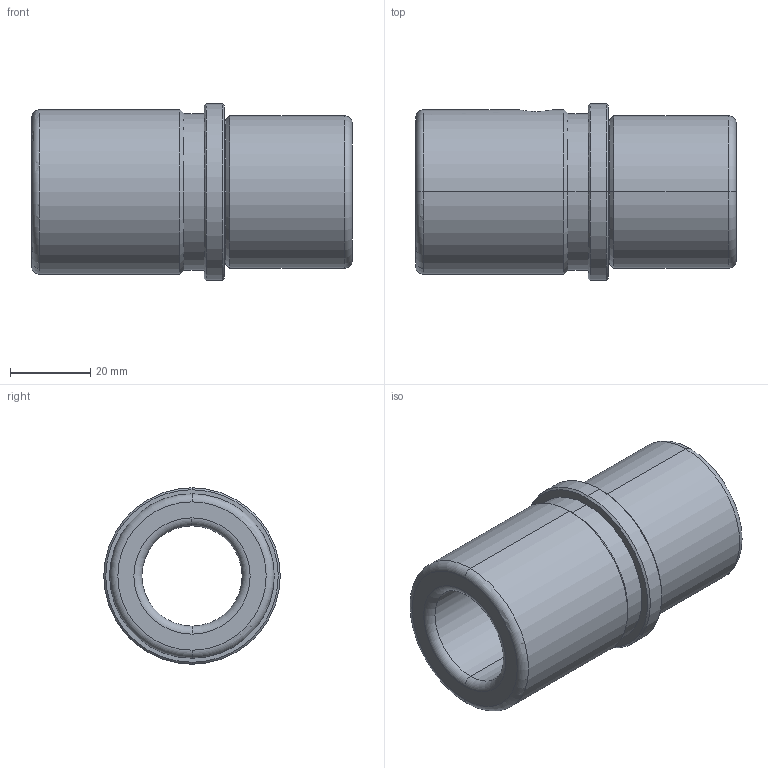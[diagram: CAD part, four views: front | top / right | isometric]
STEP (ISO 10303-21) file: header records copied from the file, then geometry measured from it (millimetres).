
FILE_DESCRIPTION(('CATIA V5 STEP Exchange'),'2;1');
FILE_NAME('C:\Users\Utente\Desktop\IO LAVORO\3D X SITO CF\X SITO\FAMO\FAMO-SF1-D25 x 80.stp','2021-01-06T17:06:33+00:00',('none'),('none'),'CATIA Version 5 Release 20 GA (IN-10)','CATIA V5 STEP AP203','none');
FILE_SCHEMA(('CONFIG_CONTROL_DESIGN'));
Length unit declared in the file: millimetre
Products named in the file (1): FAMO-SF1-D25 x 80
Bounding box: 80 x 44 x 44 mm (x, y, z)
Volume: 59541.8 mm3; surface area: 18532.6 mm2
Topology: 1 solids, 1 shells, 38 faces, 127 edges, 94 vertices
Faces by surface type: cylinder 15, cone 10, torus 8, plane 5
Entity records: 1646 total; most frequent: CARTESIAN_POINT 503, ORIENTED_EDGE 254, DIRECTION 182, EDGE_CURVE 127, AXIS2_PLACEMENT_3D 121, VERTEX_POINT 94, CIRCLE 82, EDGE_LOOP 45
